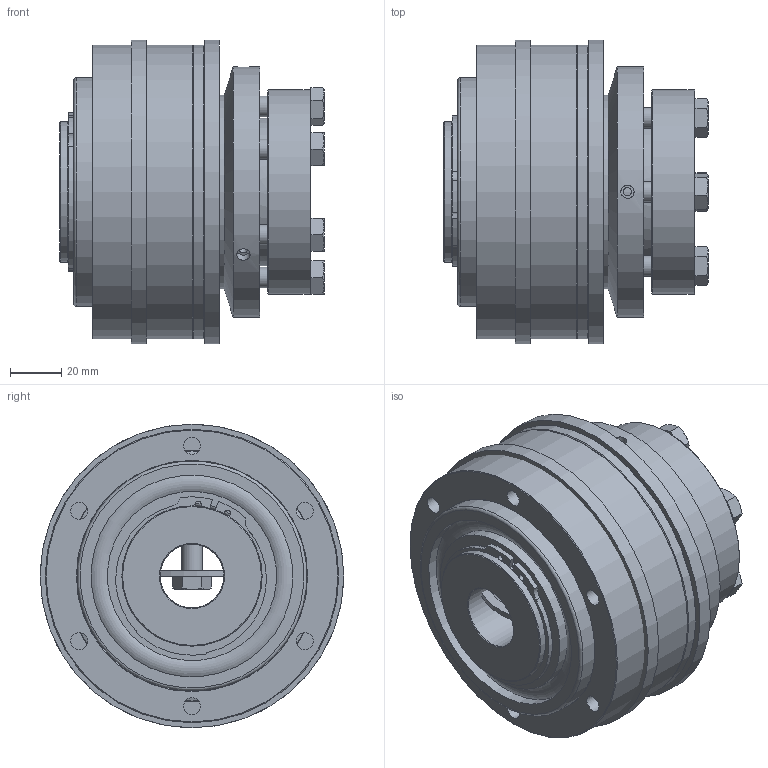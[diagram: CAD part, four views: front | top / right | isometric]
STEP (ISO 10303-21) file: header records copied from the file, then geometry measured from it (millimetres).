
FILE_DESCRIPTION( ( 'Unknown' ), '1' );
FILE_NAME( 'C:/Dokumente und Einstellungen/Sven/Desktop/hp kbk/KBK LL-A-300.stp', 'Unknown', ( 'Unknown' ), ( 'Unknown' ), 'XStep 1.0', 'Unknown', ' ' );
FILE_SCHEMA( ( 'automotive_design' ) );
Length unit declared in the file: millimetre
Products named in the file (12): Assem1; Assem2; ball_bearing_-_6011_0_01; ball_bearing_-_6011_0_02; ball_bearing_-_6011_0_03; Druckring L-A-300; Stellring 300; Druckring 300; din_en_24017_m8x30; a_55; KBK LL-A-300 Grundkörper; Flansch 300
Bounding box: 103.5 x 119 x 119 mm (x, y, z)
Volume: 1174191.7 mm3; surface area: 369782.9 mm2
Topology: 32 solids, 32 shells, 498 faces, 1052 edges, 669 vertices
Faces by surface type: plane 199, cylinder 158, cone 104, torus 37
Full cylindrical faces by diameter (mm): 2.5 x6, 3.242 x6, 5.2 x6, 6.647 x24, 8 x7, 8.5 x12, 11.63 x7, 25 x2, 52 x4, 55 x10, 57.995 x2, 66.3 x8, 76 x4, 79.1 x8, 80 x2, 83.5 x2, 88 x2, 90 x6, 98 x2, 98.5 x2, 115 x4, 119 x2
Entity records: 4737 total; most frequent: CARTESIAN_POINT 1072, DIRECTION 784, ORIENTED_EDGE 512, AXIS2_PLACEMENT_3D 366, EDGE_LOOP 306, EDGE_CURVE 256, FACE_OUTER_BOUND 228, VERTEX_POINT 208
